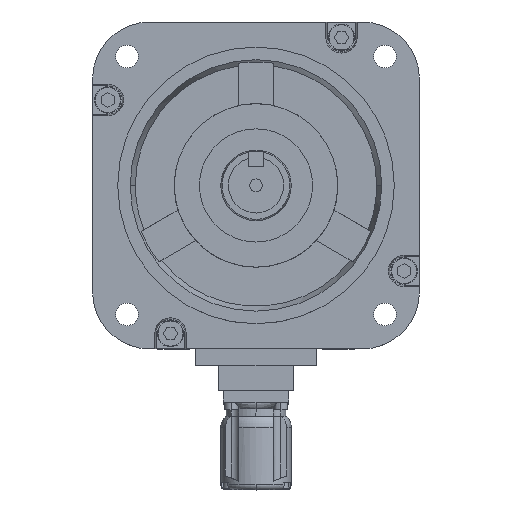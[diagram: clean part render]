
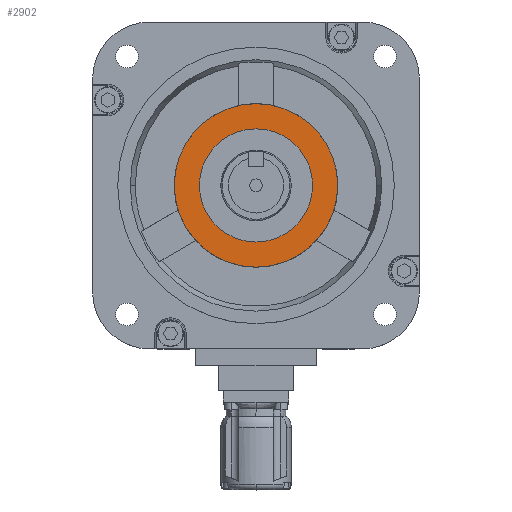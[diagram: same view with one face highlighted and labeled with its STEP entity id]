
A CAD part, top view. The second image highlights one B-rep face of the part: STEP entity #2902.
In plain terms, the highlighted planar face has unit normal (0, 0, 1).
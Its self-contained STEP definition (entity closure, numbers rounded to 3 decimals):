
#364 = VERTEX_POINT ( 'NONE', #29704 ) ;
#366 = EDGE_CURVE ( 'NONE', #364, #367, #29702, .T. ) ;
#367 = VERTEX_POINT ( 'NONE', #29696 ) ;
#2901 = EDGE_CURVE ( 'NONE', #367, #364, #43348, .T. ) ;
#2902 = ADVANCED_FACE ( 'NONE', ( #43343, #43342 ), #43380, .T. ) ;
#2903 = EDGE_LOOP ( 'NONE', ( #2904, #2905 ) ) ;
#2904 = ORIENTED_EDGE ( 'NONE', *, *, #2901, .F. ) ;
#2905 = ORIENTED_EDGE ( 'NONE', *, *, #366, .F. ) ;
#2906 = EDGE_LOOP ( 'NONE', ( #2907, #2908 ) ) ;
#2907 = ORIENTED_EDGE ( 'NONE', *, *, #20285, .T. ) ;
#2908 = ORIENTED_EDGE ( 'NONE', *, *, #16812, .T. ) ;
#6875 = DIRECTION ( 'NONE',  ( 1., 0., 0. ) ) ;
#6876 = DIRECTION ( 'NONE',  ( 0., 0., 1. ) ) ;
#6877 = CARTESIAN_POINT ( 'NONE',  ( 0., 0., 6. ) ) ;
#6878 = AXIS2_PLACEMENT_3D ( 'NONE', #6877, #6876, #6875 ) ;
#6879 = CIRCLE ( 'NONE', #6878, 32.5 ) ;
#12824 = CARTESIAN_POINT ( 'NONE',  ( -32.5, 0., 6. ) ) ;
#12894 = CARTESIAN_POINT ( 'NONE',  ( 0., 0., 6. ) ) ;
#12895 = CIRCLE ( 'NONE', #12949, 32.5 ) ;
#12940 = CARTESIAN_POINT ( 'NONE',  ( 32.5, 0., 6. ) ) ;
#12947 = DIRECTION ( 'NONE',  ( 1., 0., 0. ) ) ;
#12948 = DIRECTION ( 'NONE',  ( 0., 0., 1. ) ) ;
#12949 = AXIS2_PLACEMENT_3D ( 'NONE', #12894, #12948, #12947 ) ;
#16812 = EDGE_CURVE ( 'NONE', #20232, #20289, #6879, .T. ) ;
#20232 = VERTEX_POINT ( 'NONE', #12824 ) ;
#20285 = EDGE_CURVE ( 'NONE', #20289, #20232, #12895, .T. ) ;
#20289 = VERTEX_POINT ( 'NONE', #12940 ) ;
#29696 = CARTESIAN_POINT ( 'NONE',  ( 22.5, 0., 6. ) ) ;
#29697 = DIRECTION ( 'NONE',  ( 1., 0., 0. ) ) ;
#29698 = DIRECTION ( 'NONE',  ( 0., 0., 1. ) ) ;
#29699 = CARTESIAN_POINT ( 'NONE',  ( 0., 0., 6. ) ) ;
#29700 = AXIS2_PLACEMENT_3D ( 'NONE', #29699, #29698, #29697 ) ;
#29702 = CIRCLE ( 'NONE', #29700, 22.5 ) ;
#29704 = CARTESIAN_POINT ( 'NONE',  ( -22.5, 0., 6. ) ) ;
#43342 = FACE_OUTER_BOUND ( 'NONE', #2906, .T. ) ;
#43343 = FACE_BOUND ( 'NONE', #2903, .T. ) ;
#43344 = DIRECTION ( 'NONE',  ( 1., 0., 0. ) ) ;
#43345 = DIRECTION ( 'NONE',  ( 0., 0., 1. ) ) ;
#43346 = CARTESIAN_POINT ( 'NONE',  ( 0., 0., 6. ) ) ;
#43347 = AXIS2_PLACEMENT_3D ( 'NONE', #43346, #43345, #43344 ) ;
#43348 = CIRCLE ( 'NONE', #43347, 22.5 ) ;
#43375 = DIRECTION ( 'NONE',  ( 1., 0., 0. ) ) ;
#43376 = DIRECTION ( 'NONE',  ( 0., 0., 1. ) ) ;
#43377 = CARTESIAN_POINT ( 'NONE',  ( 0., 0., 6. ) ) ;
#43378 = AXIS2_PLACEMENT_3D ( 'NONE', #43377, #43376, #43375 ) ;
#43380 = PLANE ( 'NONE',  #43378 ) ;
